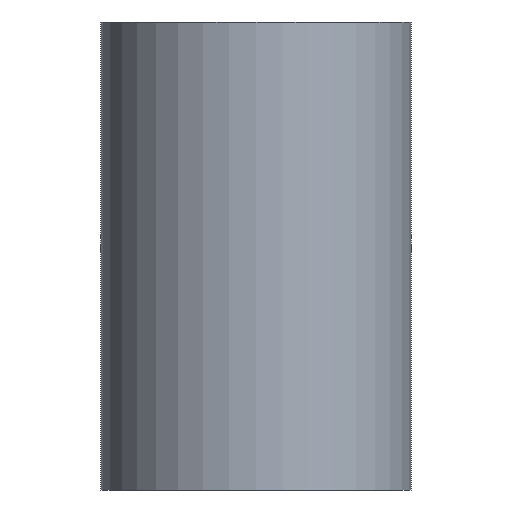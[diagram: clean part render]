
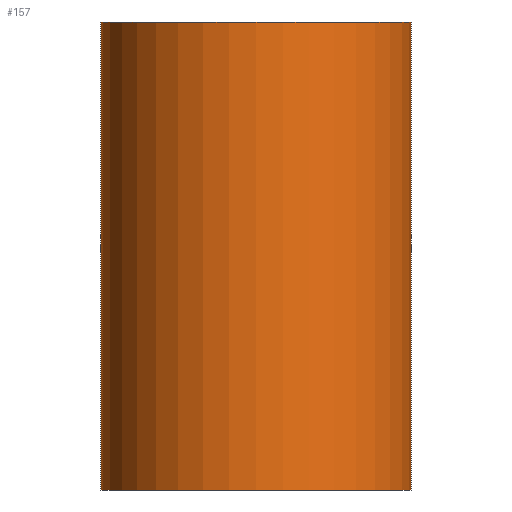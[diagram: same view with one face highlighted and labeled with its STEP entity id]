
A CAD part, front view. The second image highlights one B-rep face of the part: STEP entity #157.
In plain terms, the highlighted cylindrical face has radius 33.15 mm (diameter 66.3 mm), a partial arc.
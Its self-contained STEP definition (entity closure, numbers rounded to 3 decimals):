
#24 = DIRECTION ( 'NONE',  ( 1., 0., 0. ) ) ;
#25 = DIRECTION ( 'NONE',  ( 0., 0., 1. ) ) ;
#26 = CARTESIAN_POINT ( 'NONE',  ( 0., 0., -100. ) ) ;
#27 = AXIS2_PLACEMENT_3D ( 'NONE', #26, #25, #24 ) ;
#39 = CIRCLE ( 'NONE', #27, 33.15 ) ;
#142 = ORIENTED_EDGE ( 'NONE', *, *, #217, .T. ) ;
#143 = ORIENTED_EDGE ( 'NONE', *, *, #151, .F. ) ;
#149 = ORIENTED_EDGE ( 'NONE', *, *, #247, .T. ) ;
#151 = EDGE_CURVE ( 'NONE', #220, #223, #320, .T. ) ;
#154 = EDGE_LOOP ( 'NONE', ( #155, #149, #142, #143 ) ) ;
#155 = ORIENTED_EDGE ( 'NONE', *, *, #224, .F. ) ;
#157 = ADVANCED_FACE ( 'NONE', ( #333 ), #328, .T. ) ;
#217 = EDGE_CURVE ( 'NONE', #227, #223, #390, .T. ) ;
#220 = VERTEX_POINT ( 'NONE', #407 ) ;
#223 = VERTEX_POINT ( 'NONE', #413 ) ;
#224 = EDGE_CURVE ( 'NONE', #230, #220, #403, .T. ) ;
#227 = VERTEX_POINT ( 'NONE', #398 ) ;
#230 = VERTEX_POINT ( 'NONE', #419 ) ;
#247 = EDGE_CURVE ( 'NONE', #230, #227, #39, .T. ) ;
#316 = DIRECTION ( 'NONE',  ( 1., 0., 0. ) ) ;
#317 = DIRECTION ( 'NONE',  ( 0., 0., 1. ) ) ;
#318 = CARTESIAN_POINT ( 'NONE',  ( 0., 0., 0. ) ) ;
#319 = AXIS2_PLACEMENT_3D ( 'NONE', #318, #317, #316 ) ;
#320 = CIRCLE ( 'NONE', #319, 33.15 ) ;
#328 = CYLINDRICAL_SURFACE ( 'NONE', #362, 33.15 ) ;
#333 = FACE_OUTER_BOUND ( 'NONE', #154, .T. ) ;
#359 = DIRECTION ( 'NONE',  ( 1., 0., 0. ) ) ;
#360 = DIRECTION ( 'NONE',  ( 0., 0., 1. ) ) ;
#361 = CARTESIAN_POINT ( 'NONE',  ( 0., 0., 0. ) ) ;
#362 = AXIS2_PLACEMENT_3D ( 'NONE', #361, #360, #359 ) ;
#389 = CARTESIAN_POINT ( 'NONE',  ( 33.15, 0., 0. ) ) ;
#390 = LINE ( 'NONE', #389, #395 ) ;
#394 = DIRECTION ( 'NONE',  ( 0., 0., 1. ) ) ;
#395 = VECTOR ( 'NONE', #394, 1000. ) ;
#398 = CARTESIAN_POINT ( 'NONE',  ( 33.15, 0., -100. ) ) ;
#400 = DIRECTION ( 'NONE',  ( 0., 0., 1. ) ) ;
#401 = VECTOR ( 'NONE', #400, 1000. ) ;
#402 = CARTESIAN_POINT ( 'NONE',  ( -33.15, 0., 0. ) ) ;
#403 = LINE ( 'NONE', #402, #401 ) ;
#407 = CARTESIAN_POINT ( 'NONE',  ( -33.15, 0., 0. ) ) ;
#413 = CARTESIAN_POINT ( 'NONE',  ( 33.15, 0., 0. ) ) ;
#419 = CARTESIAN_POINT ( 'NONE',  ( -33.15, 0., -100. ) ) ;
